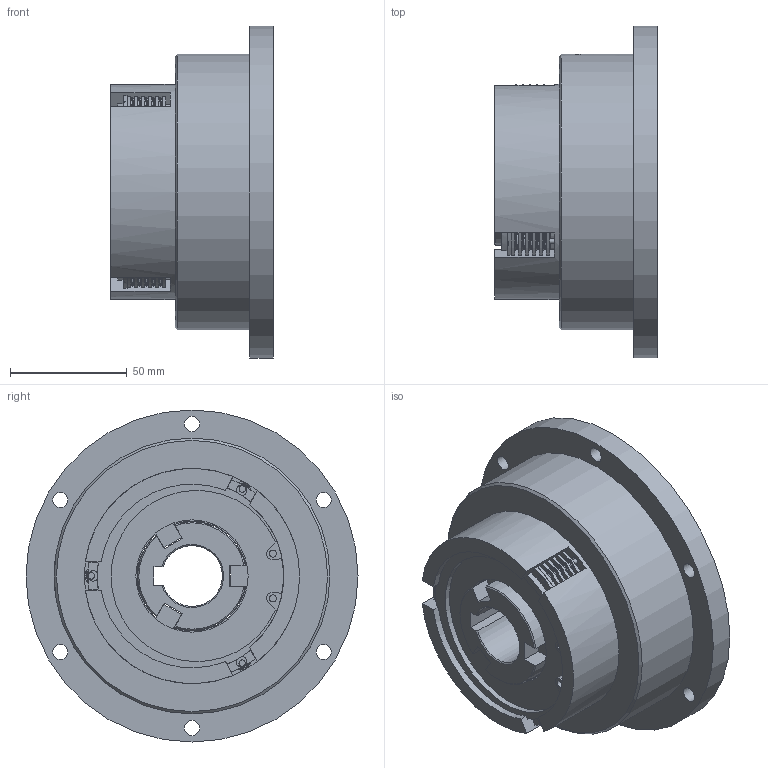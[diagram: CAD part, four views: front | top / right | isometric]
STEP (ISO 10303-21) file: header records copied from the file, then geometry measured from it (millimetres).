
FILE_DESCRIPTION(/* description */ (''),/* implementation_level */ '2;1');
FILE_NAME(/* name */ 'X:\INVENTOR\DISEGNI\03_Friz_Oleod_Pneum_Cil_Stat\03_40 FPL-N\03_40_002_01 FPL_N02\C\03_40_002_02 FPL-N02C@STEP.stp',/* time_stamp */ '2019-02-11T10:15:40+01:00',/* author */ ('stefano'),/* organization */ (''),/* preprocessor_version */ 'ST-DEVELOPER v17',/* originating_system */ 'Autodesk Inventor 2018',/* authorisation */ '');
FILE_SCHEMA (('AUTOMOTIVE_DESIGN { 1 0 10303 214 3 1 1 }'));
Length unit declared in the file: millimetre
Products named in the file (1): 03_40_002_02 FPL-N02C_Substitute_1
Bounding box: 69.5 x 142 x 142 mm (x, y, z)
Volume: 550729.7 mm3; surface area: 138915.9 mm2
Topology: 2 solids, 2 shells, 618 faces, 1723 edges, 1168 vertices
Faces by surface type: plane 307, cylinder 155, bspline 119, cone 28, torus 9
Full cylindrical faces by diameter (mm): 2 x3, 2.75 x18, 3 x2, 3.5 x3, 6 x1, 6.5 x6, 8.566 x1, 10 x14, 10.5 x6, 48 x8, 50 x1, 62.5 x1, 75 x7, 78.6 x1, 92 x1, 100 x2, 118 x1, 142 x1
Entity records: 37338 total; most frequent: CARTESIAN_POINT 20998, ORIENTED_EDGE 3426, DIRECTION 3248, EDGE_CURVE 1713, AXIS2_PLACEMENT_3D 1288, VERTEX_POINT 1168, CIRCLE 785, EDGE_LOOP 765
